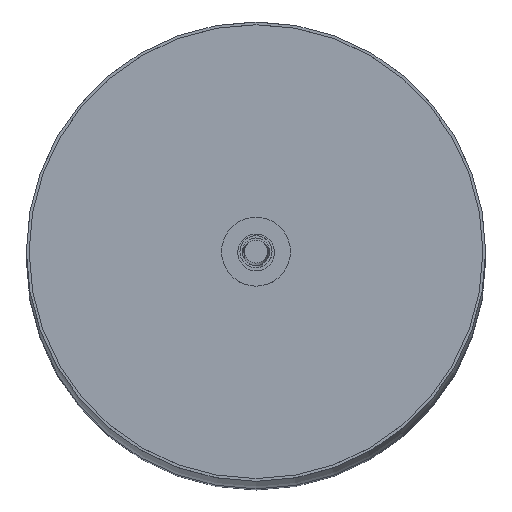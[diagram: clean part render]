
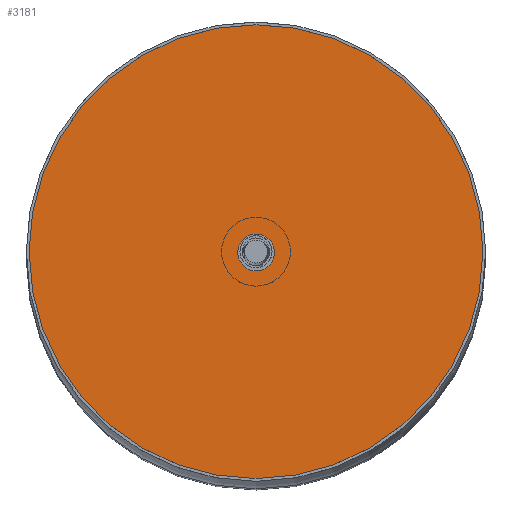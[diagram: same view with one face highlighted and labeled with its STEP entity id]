
A CAD part, top view. The second image highlights one B-rep face of the part: STEP entity #3181.
In plain terms, the highlighted planar face has unit normal (0, 0, 1).
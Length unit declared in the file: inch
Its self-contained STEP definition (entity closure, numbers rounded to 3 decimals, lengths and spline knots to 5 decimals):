
#32=FACE_BOUND('',#764,.T.);
#328=PLANE('',#3449);
#554=FACE_OUTER_BOUND('',#763,.T.);
#763=EDGE_LOOP('',(#2513));
#764=EDGE_LOOP('',(#2514));
#935=CIRCLE('',#3444,0.2);
#937=CIRCLE('',#3447,2.47);
#1444=VERTEX_POINT('',#7571);
#1446=VERTEX_POINT('',#7577);
#1831=EDGE_CURVE('',#1444,#1444,#935,.T.);
#1834=EDGE_CURVE('',#1446,#1446,#937,.F.);
#2513=ORIENTED_EDGE('',*,*,#1834,.T.);
#2514=ORIENTED_EDGE('',*,*,#1831,.T.);
#3181=ADVANCED_FACE('',(#554,#32),#328,.T.);
#3444=AXIS2_PLACEMENT_3D('',#7572,#3937,#3938);
#3447=AXIS2_PLACEMENT_3D('',#7578,#3944,#3945);
#3449=AXIS2_PLACEMENT_3D('',#7582,#3949,#3950);
#3937=DIRECTION('center_axis',(0.,0.,-1.));
#3938=DIRECTION('ref_axis',(1.,0.,0.));
#3944=DIRECTION('center_axis',(0.,0.,-1.));
#3945=DIRECTION('ref_axis',(1.,0.,0.));
#3949=DIRECTION('center_axis',(0.,0.,1.));
#3950=DIRECTION('ref_axis',(1.,0.,0.));
#7571=CARTESIAN_POINT('',(-0.19813,-0.00889,47.73));
#7572=CARTESIAN_POINT('Origin',(0.00187,-0.00889,
47.73));
#7577=CARTESIAN_POINT('',(-2.47,0.,47.73));
#7578=CARTESIAN_POINT('Origin',(0.,0.,47.73));
#7582=CARTESIAN_POINT('Origin',(0.,0.,47.73));
